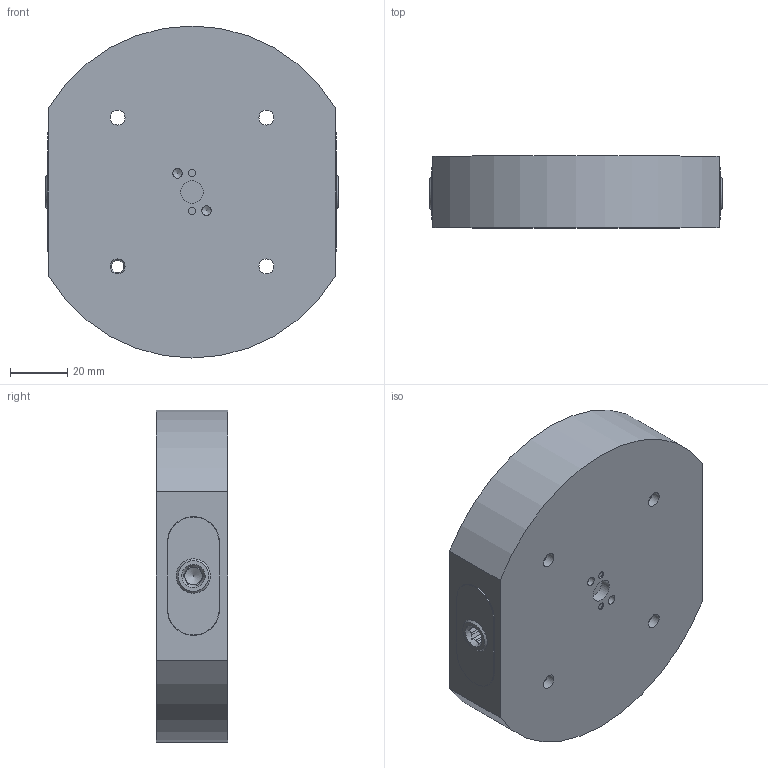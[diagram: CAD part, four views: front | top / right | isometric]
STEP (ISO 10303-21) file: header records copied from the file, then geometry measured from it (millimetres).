
FILE_DESCRIPTION (( 'STEP AP214' ), '1' );
FILE_NAME ('RL52A-4_WEBSITE.STEP', '2025-08-11T11:57:52', ( '' ), ( '' ), 'SwSTEP 2.0', 'SolidWorks 2025', '' );
FILE_SCHEMA (( 'AUTOMOTIVE_DESIGN' ));
Length unit declared in the file: inch
Products named in the file (10): D_RL52-14A_WEBSITE; D_HW22X16.DB_WEBSITE; 9452K168-Base-O-Ring_WEBSITE; D_RL52-2L_WEBSITE; 9750K720_PLASTIC ROUND PLUG_WEBSITE_9750K72; 9452K77-Truck-O-Ring_WEBSITE; D_RL52-2R_WEBSITE; D_92981A144_ALLOY STEEL SHOULDER SCREW_WEBSITE_92981A144; RL52A-4_WEBSITE; D_RL52-3_WEBSITE
Assembly tree (13 placements, depth 2):
  9750K720_PLASTIC ROUND PLUG_WEBSITE_9750K72
  RL52A-4_WEBSITE
    D_RL52-14A_WEBSITE
    D_RL52-2L_WEBSITE
    D_RL52-2R_WEBSITE
    D_RL52-3_WEBSITE
    D_HW22X16.DB_WEBSITE  x4
    D_92981A144_ALLOY STEEL SHOULDER SCREW_WEBSITE_92981A144  x2
    9452K168-Base-O-Ring_WEBSITE
    9452K77-Truck-O-Ring_WEBSITE  x2
Bounding box: 102.11 x 25 x 116 mm (x, y, z)
Volume: 221389.5 mm3; surface area: 59574.3 mm2
Topology: 15 solids, 15 shells, 259 faces, 556 edges, 346 vertices
Faces by surface type: plane 151, cylinder 81, cone 22, torus 3, bspline 2
Full cylindrical faces by diameter (mm): 0.254 x2, 2.5 x2, 3 x2, 3.3 x2, 4 x2, 4.089 x2, 5.182 x4, 6 x2, 6.147 x2, 7 x2, 8.026 x1, 8.89 x1, 9.144 x4, 9.525 x4, 12 x2, 13.754 x2, 15.24 x2, 15.291 x4, 15.875 x1, 16.002 x4, 16.03 x4, 21.981 x4, 21.994 x4, 22.047 x4
Entity records: 7626 total; most frequent: CARTESIAN_POINT 2274, DIRECTION 1026, ORIENTED_EDGE 820, AXIS2_PLACEMENT_3D 418, EDGE_CURVE 410, EDGE_LOOP 342, VERTEX_POINT 292, FACE_OUTER_BOUND 276
